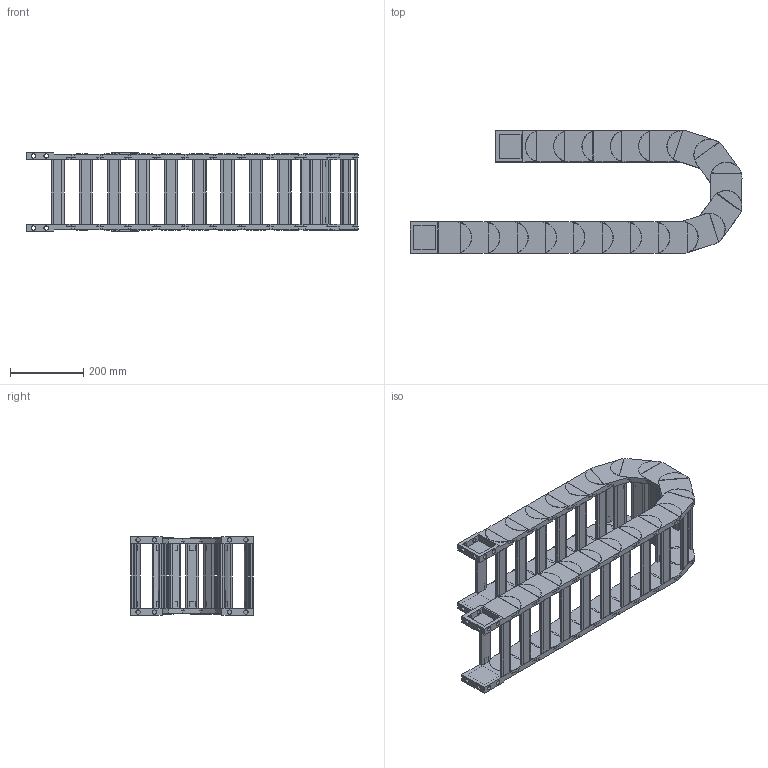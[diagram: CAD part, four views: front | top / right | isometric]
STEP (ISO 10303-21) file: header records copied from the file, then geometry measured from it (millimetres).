
FILE_DESCRIPTION((''),'2;1');
FILE_NAME('HD65-R125-ZPT_ASM','2022-06-18T16:20:05',('admin'),(''),'CREO PARAMETRIC BY PTC INC, 2021164','CREO PARAMETRIC BY PTC INC, 2021164','');
FILE_SCHEMA(('CONFIG_CONTROL_DESIGN','GEOMETRIC_VALIDATION_PROPERTIES_MIM'));
Length unit declared in the file: millimetre
Products named in the file (6): HD65; 65-50HDQSYP; HD65_ASM; H65-T1; H65-T2; HD65-R125-ZPT_ASM
Assembly tree (24 placements, depth 3):
  HD65-R125-ZPT_ASM
    HD65_ASM  x18
      HD65
      65-50HDQSYP
    H65-T1
    H65-T2
    65-50HDQSYP  x2
Bounding box: 908.33 x 335.99 x 215.4 mm (x, y, z)
Volume: 6561124.4 mm3; surface area: 1954908.8 mm2
Topology: 80 solids, 80 shells, 1484 faces, 3908 edges, 2668 vertices
Faces by surface type: plane 1136, cylinder 348
Entity records: 8872 total; most frequent: CARTESIAN_POINT 1324, DIRECTION 1292, ORIENTED_EDGE 1212, EDGE_CURVE 606, AXIS2_PLACEMENT_3D 434, VECTOR 424, LINE 424, VERTEX_POINT 410
